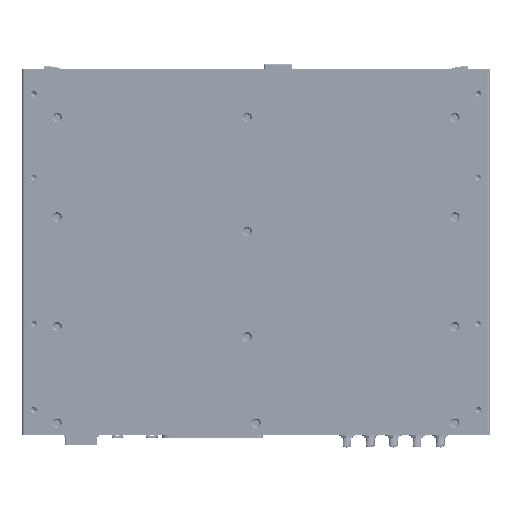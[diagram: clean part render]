
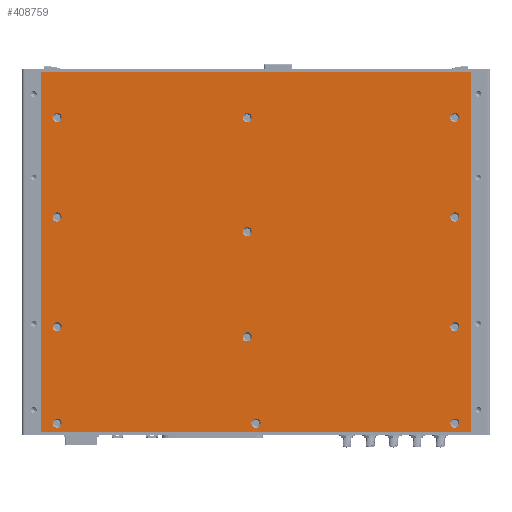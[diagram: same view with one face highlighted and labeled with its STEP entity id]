
A CAD part, front view. The second image highlights one B-rep face of the part: STEP entity #408759.
In plain terms, the highlighted planar face has unit normal (0, -1, 0).
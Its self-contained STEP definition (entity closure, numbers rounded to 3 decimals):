
#14001=PLANE('',#438459);
#22867=FACE_BOUND('',#63103,.T.);
#22868=FACE_BOUND('',#63104,.T.);
#22869=FACE_BOUND('',#63105,.T.);
#22870=FACE_BOUND('',#63106,.T.);
#22871=FACE_BOUND('',#63107,.T.);
#22872=FACE_BOUND('',#63108,.T.);
#22873=FACE_BOUND('',#63109,.T.);
#22874=FACE_BOUND('',#63110,.T.);
#22875=FACE_BOUND('',#63111,.T.);
#22876=FACE_BOUND('',#63112,.T.);
#22877=FACE_BOUND('',#63113,.T.);
#22878=FACE_BOUND('',#63114,.T.);
#40854=FACE_OUTER_BOUND('',#63102,.T.);
#63102=EDGE_LOOP('',(#353239,#353240,#353241,#353242));
#63103=EDGE_LOOP('',(#353243));
#63104=EDGE_LOOP('',(#353244));
#63105=EDGE_LOOP('',(#353245));
#63106=EDGE_LOOP('',(#353246));
#63107=EDGE_LOOP('',(#353247));
#63108=EDGE_LOOP('',(#353248));
#63109=EDGE_LOOP('',(#353249));
#63110=EDGE_LOOP('',(#353250));
#63111=EDGE_LOOP('',(#353251));
#63112=EDGE_LOOP('',(#353252));
#63113=EDGE_LOOP('',(#353253));
#63114=EDGE_LOOP('',(#353254));
#76279=CIRCLE('',#438424,3.15);
#76281=CIRCLE('',#438427,3.15);
#76283=CIRCLE('',#438430,3.15);
#76285=CIRCLE('',#438433,3.15);
#76287=CIRCLE('',#438436,3.15);
#76289=CIRCLE('',#438439,3.15);
#76291=CIRCLE('',#438442,3.15);
#76293=CIRCLE('',#438445,3.15);
#76295=CIRCLE('',#438448,3.15);
#76297=CIRCLE('',#438451,3.15);
#76299=CIRCLE('',#438454,3.15);
#76301=CIRCLE('',#438457,3.15);
#114618=LINE('',#721299,#156128);
#114619=LINE('',#721301,#156129);
#114620=LINE('',#721303,#156130);
#114621=LINE('',#721304,#156131);
#156128=VECTOR('',#532846,1000.);
#156129=VECTOR('',#532847,1000.);
#156130=VECTOR('',#532848,1000.);
#156131=VECTOR('',#532849,1000.);
#195739=VERTEX_POINT('',#721221);
#195741=VERTEX_POINT('',#721227);
#195743=VERTEX_POINT('',#721233);
#195745=VERTEX_POINT('',#721239);
#195747=VERTEX_POINT('',#721245);
#195749=VERTEX_POINT('',#721251);
#195751=VERTEX_POINT('',#721257);
#195753=VERTEX_POINT('',#721263);
#195755=VERTEX_POINT('',#721269);
#195757=VERTEX_POINT('',#721275);
#195759=VERTEX_POINT('',#721281);
#195761=VERTEX_POINT('',#721287);
#195764=VERTEX_POINT('',#721297);
#195765=VERTEX_POINT('',#721298);
#195766=VERTEX_POINT('',#721300);
#195767=VERTEX_POINT('',#721302);
#249359=EDGE_CURVE('',#195739,#195739,#76279,.T.);
#249362=EDGE_CURVE('',#195741,#195741,#76281,.T.);
#249365=EDGE_CURVE('',#195743,#195743,#76283,.T.);
#249368=EDGE_CURVE('',#195745,#195745,#76285,.T.);
#249371=EDGE_CURVE('',#195747,#195747,#76287,.T.);
#249374=EDGE_CURVE('',#195749,#195749,#76289,.T.);
#249377=EDGE_CURVE('',#195751,#195751,#76291,.T.);
#249380=EDGE_CURVE('',#195753,#195753,#76293,.T.);
#249383=EDGE_CURVE('',#195755,#195755,#76295,.T.);
#249386=EDGE_CURVE('',#195757,#195757,#76297,.T.);
#249389=EDGE_CURVE('',#195759,#195759,#76299,.T.);
#249392=EDGE_CURVE('',#195761,#195761,#76301,.T.);
#249396=EDGE_CURVE('',#195764,#195765,#114618,.T.);
#249397=EDGE_CURVE('',#195765,#195766,#114619,.T.);
#249398=EDGE_CURVE('',#195766,#195767,#114620,.T.);
#249399=EDGE_CURVE('',#195767,#195764,#114621,.T.);
#353239=ORIENTED_EDGE('',*,*,#249396,.T.);
#353240=ORIENTED_EDGE('',*,*,#249397,.T.);
#353241=ORIENTED_EDGE('',*,*,#249398,.T.);
#353242=ORIENTED_EDGE('',*,*,#249399,.T.);
#353243=ORIENTED_EDGE('',*,*,#249359,.F.);
#353244=ORIENTED_EDGE('',*,*,#249362,.F.);
#353245=ORIENTED_EDGE('',*,*,#249365,.F.);
#353246=ORIENTED_EDGE('',*,*,#249368,.F.);
#353247=ORIENTED_EDGE('',*,*,#249371,.F.);
#353248=ORIENTED_EDGE('',*,*,#249374,.F.);
#353249=ORIENTED_EDGE('',*,*,#249377,.F.);
#353250=ORIENTED_EDGE('',*,*,#249380,.F.);
#353251=ORIENTED_EDGE('',*,*,#249383,.F.);
#353252=ORIENTED_EDGE('',*,*,#249386,.F.);
#353253=ORIENTED_EDGE('',*,*,#249389,.F.);
#353254=ORIENTED_EDGE('',*,*,#249392,.F.);
#408759=ADVANCED_FACE('',(#40854,#22867,#22868,#22869,#22870,#22871,#22872,
#22873,#22874,#22875,#22876,#22877,#22878),#14001,.T.);
#438424=AXIS2_PLACEMENT_3D('',#721223,#532760,#532761);
#438427=AXIS2_PLACEMENT_3D('',#721229,#532767,#532768);
#438430=AXIS2_PLACEMENT_3D('',#721235,#532774,#532775);
#438433=AXIS2_PLACEMENT_3D('',#721241,#532781,#532782);
#438436=AXIS2_PLACEMENT_3D('',#721247,#532788,#532789);
#438439=AXIS2_PLACEMENT_3D('',#721253,#532795,#532796);
#438442=AXIS2_PLACEMENT_3D('',#721259,#532802,#532803);
#438445=AXIS2_PLACEMENT_3D('',#721265,#532809,#532810);
#438448=AXIS2_PLACEMENT_3D('',#721271,#532816,#532817);
#438451=AXIS2_PLACEMENT_3D('',#721277,#532823,#532824);
#438454=AXIS2_PLACEMENT_3D('',#721283,#532830,#532831);
#438457=AXIS2_PLACEMENT_3D('',#721289,#532837,#532838);
#438459=AXIS2_PLACEMENT_3D('',#721296,#532844,#532845);
#532760=DIRECTION('center_axis',(0.,-1.,0.));
#532761=DIRECTION('ref_axis',(0.,0.,-1.));
#532767=DIRECTION('center_axis',(0.,-1.,0.));
#532768=DIRECTION('ref_axis',(0.,0.,-1.));
#532774=DIRECTION('center_axis',(0.,-1.,0.));
#532775=DIRECTION('ref_axis',(0.,0.,-1.));
#532781=DIRECTION('center_axis',(0.,-1.,0.));
#532782=DIRECTION('ref_axis',(0.,0.,-1.));
#532788=DIRECTION('center_axis',(0.,-1.,0.));
#532789=DIRECTION('ref_axis',(0.,0.,-1.));
#532795=DIRECTION('center_axis',(0.,-1.,0.));
#532796=DIRECTION('ref_axis',(0.,0.,-1.));
#532802=DIRECTION('center_axis',(0.,-1.,0.));
#532803=DIRECTION('ref_axis',(0.,0.,-1.));
#532809=DIRECTION('center_axis',(0.,-1.,0.));
#532810=DIRECTION('ref_axis',(0.,0.,-1.));
#532816=DIRECTION('center_axis',(0.,-1.,0.));
#532817=DIRECTION('ref_axis',(0.,0.,-1.));
#532823=DIRECTION('center_axis',(0.,-1.,0.));
#532824=DIRECTION('ref_axis',(0.,0.,-1.));
#532830=DIRECTION('center_axis',(0.,-1.,0.));
#532831=DIRECTION('ref_axis',(0.,0.,-1.));
#532837=DIRECTION('center_axis',(0.,-1.,0.));
#532838=DIRECTION('ref_axis',(0.,0.,-1.));
#532844=DIRECTION('center_axis',(0.,-1.,0.));
#532845=DIRECTION('ref_axis',(0.,0.,-1.));
#532846=DIRECTION('',(-1.,0.,0.));
#532847=DIRECTION('',(0.,0.,-1.));
#532848=DIRECTION('',(1.,0.,0.));
#532849=DIRECTION('',(0.,0.,1.));
#721221=CARTESIAN_POINT('',(136.,0.2,95.15));
#721223=CARTESIAN_POINT('Origin',(136.,0.2,92.));
#721227=CARTESIAN_POINT('',(136.,0.2,27.15));
#721229=CARTESIAN_POINT('Origin',(136.,0.2,24.));
#721233=CARTESIAN_POINT('',(136.,0.2,-47.85));
#721235=CARTESIAN_POINT('Origin',(136.,0.2,-51.));
#721239=CARTESIAN_POINT('',(136.,0.2,-113.85));
#721241=CARTESIAN_POINT('Origin',(136.,0.2,-117.));
#721245=CARTESIAN_POINT('',(-136.,0.2,-113.85));
#721247=CARTESIAN_POINT('Origin',(-136.,0.2,-117.));
#721251=CARTESIAN_POINT('',(-136.,0.2,-47.85));
#721253=CARTESIAN_POINT('Origin',(-136.,0.2,-51.));
#721257=CARTESIAN_POINT('',(-136.,0.2,27.15));
#721259=CARTESIAN_POINT('Origin',(-136.,0.2,24.));
#721263=CARTESIAN_POINT('',(-136.,0.2,95.15));
#721265=CARTESIAN_POINT('Origin',(-136.,0.2,92.));
#721269=CARTESIAN_POINT('',(0.,0.2,-113.85));
#721271=CARTESIAN_POINT('Origin',(0.,0.2,
-117.));
#721275=CARTESIAN_POINT('',(-6.,0.2,-54.85));
#721277=CARTESIAN_POINT('Origin',(-6.,0.2,-58.));
#721281=CARTESIAN_POINT('',(-6.,0.2,17.15));
#721283=CARTESIAN_POINT('Origin',(-6.,0.2,14.));
#721287=CARTESIAN_POINT('',(-6.,0.2,95.15));
#721289=CARTESIAN_POINT('Origin',(-6.,0.2,92.));
#721296=CARTESIAN_POINT('Origin',(0.,0.2,
0.));
#721297=CARTESIAN_POINT('',(146.85,0.2,122.9));
#721298=CARTESIAN_POINT('',(-146.85,0.2,122.9));
#721299=CARTESIAN_POINT('',(146.85,0.2,122.9));
#721300=CARTESIAN_POINT('',(-146.85,0.2,-122.9));
#721301=CARTESIAN_POINT('',(-146.85,0.2,-123.));
#721302=CARTESIAN_POINT('',(146.85,0.2,-122.9));
#721303=CARTESIAN_POINT('',(-146.85,0.2,-122.9));
#721304=CARTESIAN_POINT('',(146.85,0.2,-123.));
